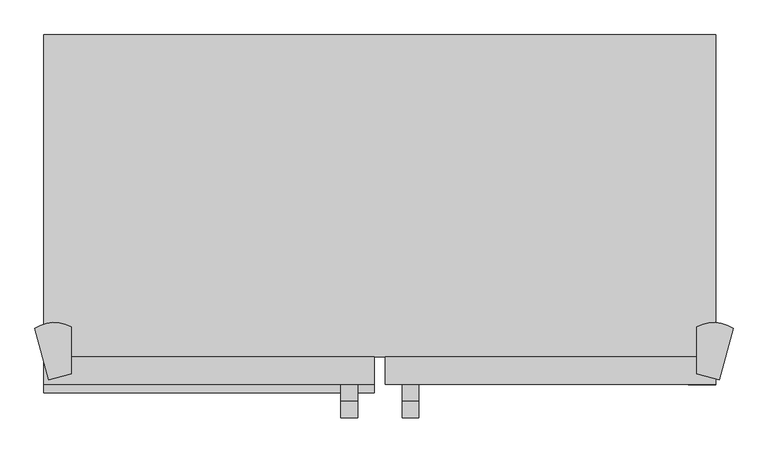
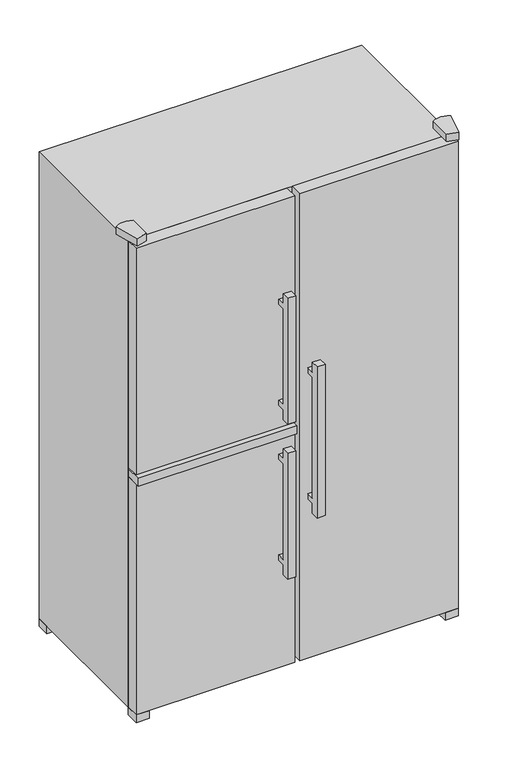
"""IFC4 building model written with IfcOpenShell, lengths in millimetres: proxy geometry, SBSbs 7353, SBSes 7353 : SBSes 7353."""

from ifc_helpers import new_model, si_unit, point, frame, frame_2d, origin, place, context, project, spatial, polyline, circle_curve, trimmed, segment, composite_curve, outline, extrude, source, transform, mapped, element, save


def specialty_equipment_3c9227b6(model_context):
    return source(origin(), model_context, "Body", "SweptSolid", [
        extrude(outline(polyline([(210.0, -609.8345306), (210.0, -659.8345306), (160.0, -659.8345306), (160.0, -609.8345306), (210.0, -609.8345306)])), frame((0.0, 0.0, -915.1867483), z_axis=(0.0, 0.0, 1.0), x_axis=(1.0, 0.0, 0.0)), (0.0, 0.0, 1.0), 30.0),
        extrude(outline(polyline([(210.0, -29.8345306), (210.0, -79.8345306), (160.0, -79.8345306), (160.0, -29.8345306), (210.0, -29.8345306)])), frame((0.0, 0.0, -915.1867483), z_axis=(0.0, 0.0, 1.0), x_axis=(1.0, 0.0, 0.0)), (0.0, 0.0, 1.0), 30.0),
        extrude(outline(polyline([(-950.0, -29.8345306), (-950.0, -79.8345306), (-1000.0, -79.8345306), (-1000.0, -29.8345306), (-950.0, -29.8345306)])), frame((0.0, 0.0, -915.1867483), z_axis=(0.0, 0.0, 1.0), x_axis=(1.0, 0.0, 0.0)), (0.0, 0.0, 1.0), 30.0),
        extrude(outline(polyline([(-950.0, -609.8345306), (-950.0, -659.8345306), (-1000.0, -659.8345306), (-1000.0, -609.8345306), (-950.0, -609.8345306)])), frame((0.0, 0.0, -915.1867483), z_axis=(0.0, 0.0, 1.0), x_axis=(1.0, 0.0, 0.0)), (0.0, 0.0, 1.0), 30.0),
        extrude(outline(composite_curve([segment(polyline([(215.4751893, -651.3954664), (175.4211614, -640.663022), (175.4211614, -555.5856816)]), True, "CONTINUOUS"), segment(trimmed(circle_curve(frame_2d((205.8636246, -612.0484332)), 64.1465968), [point((175.4211614, -555.5856816))], [point((240.7822422, -558.2388055))], False, "CARTESIAN"), True, "CONTINUOUS"), segment(polyline([(240.7822422, -558.2388055), (215.4751893, -651.3954664)]), True, "CONTINUOUS")], self_intersect=False)), frame((0.0, 0.0, 966.8132517), z_axis=(0.0, 0.0, 1.0), x_axis=(1.0, 0.0, 0.0)), (0.0, 0.0, 1.0), 30.0),
        extrude(outline(composite_curve([segment(polyline([(-990.4751893, -651.3954664), (-1015.7822422, -558.2388055)]), True, "CONTINUOUS"), segment(trimmed(circle_curve(frame_2d((-980.8636246, -612.0484332)), 64.1465968), [point((-1015.7822422, -558.2388055))], [point((-950.4211614, -555.5856816))], False, "CARTESIAN"), True, "CONTINUOUS"), segment(polyline([(-950.4211614, -555.5856816), (-950.4211614, -640.663022), (-990.4751893, -651.3954664)]), True, "CONTINUOUS")], self_intersect=False)), frame((0.0, 0.0, 966.8132517), z_axis=(0.0, 0.0, 1.0), x_axis=(1.0, 0.0, 0.0)), (0.0, 0.0, 1.0), 30.0),
        extrude(outline(polyline([(-689.8345306, 266.8132517), (-659.8345306, 266.8132517), (-659.8345306, 246.8132517), (-689.8345306, 246.8132517), (-689.8345306, -233.1867483), (-659.8345306, -233.1867483), (-659.8345306, -253.1867483), (-689.8345306, -253.1867483), (-689.8345306, -293.1867483), (-719.8345306, -293.1867483), (-719.8345306, 306.8132517), (-689.8345306, 306.8132517), (-689.8345306, 266.8132517)])), frame((-355.0, 0.0, 0.0), z_axis=(1.0, 0.0, 0.0), x_axis=(0.0, 1.0, 0.0)), (0.0, 0.0, 1.0), 30.0),
        extrude(outline(polyline([(-689.8345306, -37.6867483), (-659.8345306, -37.6867483), (-659.8345306, -57.6867483), (-689.8345306, -57.6867483), (-689.8345306, -437.6867483), (-659.8345306, -437.6867483), (-659.8345306, -457.6867483), (-689.8345306, -457.6867483), (-689.8345306, -497.6867483), (-719.8345306, -497.6867483), (-719.8345306, 2.3132517), (-689.8345306, 2.3132517), (-689.8345306, -37.6867483)])), frame((-465.0, 0.0, 0.0), z_axis=(1.0, 0.0, 0.0), x_axis=(0.0, 1.0, 0.0)), (0.0, 0.0, 1.0), 30.0),
        extrude(outline(polyline([(-689.8345306, 577.1002065), (-659.8345306, 577.1002065), (-659.8345306, 557.1002065), (-689.8345306, 557.1002065), (-689.8345306, 177.1002065), (-659.8345306, 177.1002065), (-659.8345306, 157.1002065), (-689.8345306, 157.1002065), (-689.8345306, 117.1002065), (-719.8345306, 117.1002065), (-719.8345306, 617.1002065), (-689.8345306, 617.1002065), (-689.8345306, 577.1002065)])), frame((-465.0, 0.0, 0.0), z_axis=(1.0, 0.0, 0.0), x_axis=(0.0, 1.0, 0.0)), (0.0, 0.0, 1.0), 30.0),
        extrude(outline(polyline([(-405.0, -674.8345306), (-1000.0, -674.8345306), (-1000.0, -609.8345306), (-405.0, -609.8345306), (-405.0, -674.8345306)])), frame((0.0, 0.0, 32.3132517), z_axis=(0.0, 0.0, 1.0), x_axis=(1.0, 0.0, 0.0)), (0.0, 0.0, 1.0), 30.0),
        extrude(outline(polyline([(-405.0, -659.8345306), (-1000.0, -659.8345306), (-1000.0, -609.8345306), (-405.0, -609.8345306), (-405.0, -659.8345306)])), frame((0.0, 0.0, -885.1867483), z_axis=(0.0, 0.0, 1.0), x_axis=(1.0, 0.0, 0.0)), (0.0, 0.0, 1.0), 917.5),
        extrude(outline(polyline([(-405.0, -659.8345306), (-1000.0, -659.8345306), (-1000.0, -609.8345306), (-405.0, -609.8345306), (-405.0, -659.8345306)])), frame((0.0, 0.0, 67.1002065), z_axis=(0.0, 0.0, 1.0), x_axis=(1.0, 0.0, 0.0)), (0.0, 0.0, 1.0), 899.7130452),
        extrude(outline(polyline([(210.0, -659.8345306), (-385.0, -659.8345306), (-385.0, -609.8345306), (210.0, -609.8345306), (210.0, -659.8345306)])), frame((0.0, 0.0, -885.1867483), z_axis=(0.0, 0.0, 1.0), x_axis=(1.0, 0.0, 0.0)), (0.0, 0.0, 1.0), 1852.0),
        extrude(outline(polyline([(210.0, -609.8345306), (-1000.0, -609.8345306), (-1000.0, -29.8345306), (210.0, -29.8345306), (210.0, -609.8345306)])), frame((0.0, 0.0, -885.1867483), z_axis=(0.0, 0.0, 1.0), x_axis=(1.0, 0.0, 0.0)), (0.0, 0.0, 1.0), 1852.0),
    ])


if __name__ == "__main__":
    model = new_model("IFC4")
    model_context = context("Model", 3, world=origin())
    ifc_project = project(units=[si_unit("LENGTHUNIT", "METRE", prefix="MILLI")], contexts=[model_context])
    site = spatial("IfcSite", under=ifc_project)
    building = spatial("IfcBuilding", under=site)
    placement = place(None, origin())
    specialty_equipment_shape = specialty_equipment_3c9227b6(model_context)
    element("IfcBuildingElementProxy", 1, Name="SBSbs 7353, SBSes 7353 : SBSes 7353", ObjectType="SBSbs 7353, SBSes 7353 : SBSes 7353", at=placement, inside=building, context=model_context, shape_type="MappedRepresentation", body=[
        mapped(specialty_equipment_shape, transform((0.0, 0.0, 0.0), x_axis=(1.0, 0.0, 0.0), y_axis=(0.0, 1.0, 0.0), z_axis=(0.0, 0.0, 1.0))),
    ])
    save(model, "model.ifc")
